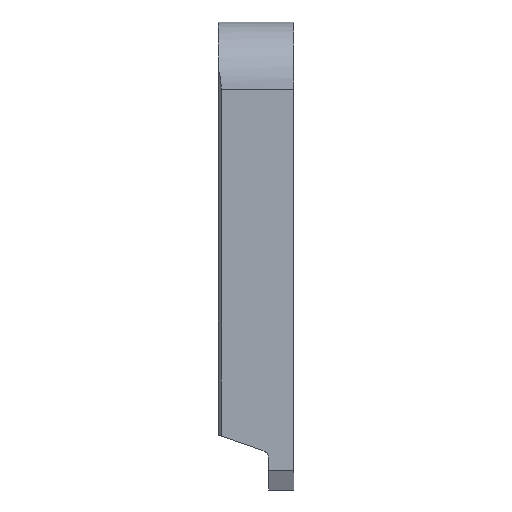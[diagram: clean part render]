
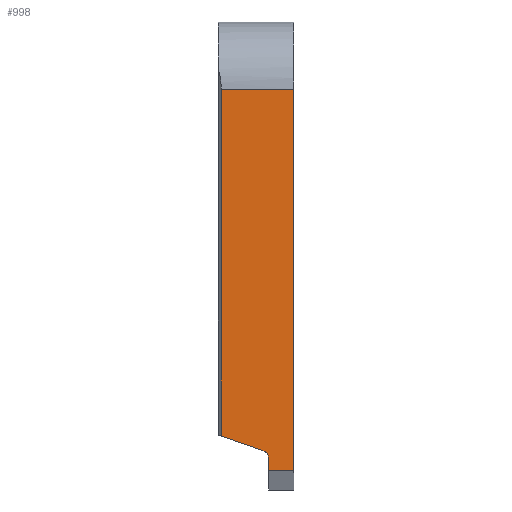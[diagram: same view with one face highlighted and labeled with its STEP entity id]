
A CAD part, front view. The second image highlights one B-rep face of the part: STEP entity #998.
In plain terms, the highlighted planar face has unit normal (0, -1, 0).
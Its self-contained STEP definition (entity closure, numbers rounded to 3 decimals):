
#510=AXIS2_PLACEMENT_3D('Circle Axis2P3D',#508,#509,$) ;
#961=AXIS2_PLACEMENT_3D('Plane Axis2P3D',#958,#959,#960) ;
#294=CARTESIAN_POINT('Vertex',(4.26,0.,-49.167)) ;
#297=CARTESIAN_POINT('Line Origine',(2.28,0.,-48.486)) ;
#301=CARTESIAN_POINT('Vertex',(0.3,0.,-47.804)) ;
#508=CARTESIAN_POINT('Axis2P3D Location',(4.,0.,-49.924)) ;
#512=CARTESIAN_POINT('Vertex',(4.8,0.,-49.924)) ;
#905=CARTESIAN_POINT('Line Origine',(4.8,0.,-50.503)) ;
#909=CARTESIAN_POINT('Vertex',(4.8,0.,-51.082)) ;
#958=CARTESIAN_POINT('Axis2P3D Location',(6.,0.,-52.924)) ;
#963=CARTESIAN_POINT('Line Origine',(3.75,0.,-14.824)) ;
#967=CARTESIAN_POINT('Vertex',(0.3,0.,-14.824)) ;
#969=CARTESIAN_POINT('Vertex',(7.2,0.,-14.824)) ;
#972=CARTESIAN_POINT('Line Origine',(0.3,0.,-31.314)) ;
#977=CARTESIAN_POINT('Line Origine',(6.,0.,-51.082)) ;
#981=CARTESIAN_POINT('Vertex',(7.2,0.,-51.082)) ;
#984=CARTESIAN_POINT('Line Origine',(7.2,0.,-32.953)) ;
#298=DIRECTION('Vector Direction',(-0.946,0.,0.326)) ;
#509=DIRECTION('Axis2P3D Direction',(0.,1.,0.)) ;
#906=DIRECTION('Vector Direction',(0.,0.,-1.)) ;
#959=DIRECTION('Axis2P3D Direction',(0.,1.,0.)) ;
#960=DIRECTION('Axis2P3D XDirection',(0.,0.,1.)) ;
#964=DIRECTION('Vector Direction',(1.,0.,0.)) ;
#973=DIRECTION('Vector Direction',(0.,0.,1.)) ;
#978=DIRECTION('Vector Direction',(-1.,0.,0.)) ;
#985=DIRECTION('Vector Direction',(0.,0.,1.)) ;
#299=VECTOR('Line Direction',#298,1.) ;
#907=VECTOR('Line Direction',#906,1.) ;
#965=VECTOR('Line Direction',#964,1.) ;
#974=VECTOR('Line Direction',#973,1.) ;
#979=VECTOR('Line Direction',#978,1.) ;
#986=VECTOR('Line Direction',#985,1.) ;
#990=ORIENTED_EDGE('',*,*,#971,.F.) ;
#991=ORIENTED_EDGE('',*,*,#976,.F.) ;
#992=ORIENTED_EDGE('',*,*,#303,.F.) ;
#993=ORIENTED_EDGE('',*,*,#514,.T.) ;
#994=ORIENTED_EDGE('',*,*,#911,.T.) ;
#995=ORIENTED_EDGE('',*,*,#983,.F.) ;
#996=ORIENTED_EDGE('',*,*,#988,.F.) ;
#998=ADVANCED_FACE('NOCUT',(#997),#962,.F.) ;
#511=CIRCLE('generated circle',#510,0.8) ;
#303=EDGE_CURVE('',#295,#302,#300,.T.) ;
#514=EDGE_CURVE('',#295,#513,#511,.T.) ;
#911=EDGE_CURVE('',#513,#910,#908,.T.) ;
#971=EDGE_CURVE('',#968,#970,#966,.T.) ;
#976=EDGE_CURVE('',#302,#968,#975,.T.) ;
#983=EDGE_CURVE('',#982,#910,#980,.T.) ;
#988=EDGE_CURVE('',#970,#982,#987,.F.) ;
#989=EDGE_LOOP('',(#990,#991,#992,#993,#994,#995,#996)) ;
#997=FACE_OUTER_BOUND('',#989,.T.) ;
#300=LINE('Line',#297,#299) ;
#908=LINE('Line',#905,#907) ;
#966=LINE('Line',#963,#965) ;
#975=LINE('Line',#972,#974) ;
#980=LINE('Line',#977,#979) ;
#987=LINE('Line',#984,#986) ;
#962=PLANE('',#961) ;
#295=VERTEX_POINT('',#294) ;
#302=VERTEX_POINT('',#301) ;
#513=VERTEX_POINT('',#512) ;
#910=VERTEX_POINT('',#909) ;
#968=VERTEX_POINT('',#967) ;
#970=VERTEX_POINT('',#969) ;
#982=VERTEX_POINT('',#981) ;
